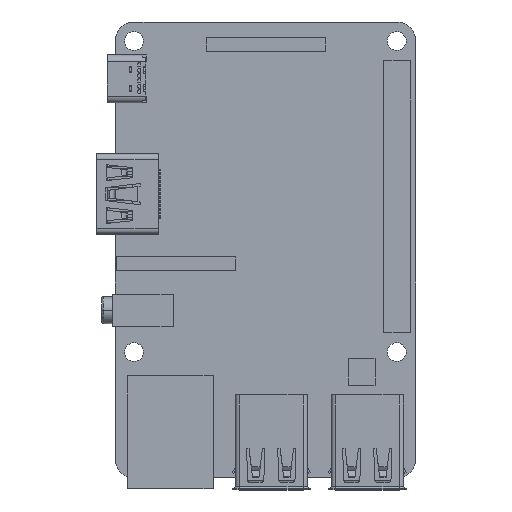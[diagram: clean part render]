
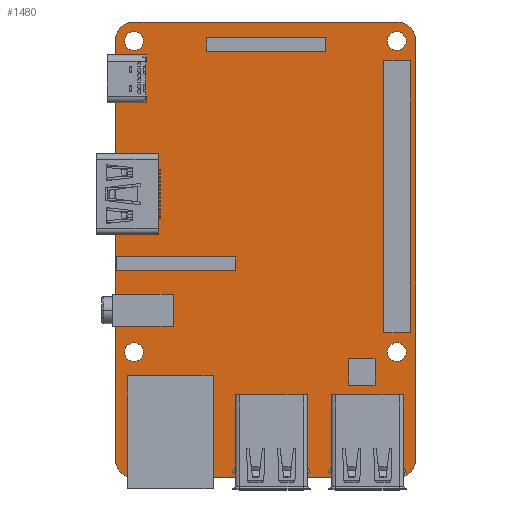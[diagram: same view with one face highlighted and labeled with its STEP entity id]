
A CAD part, top view. The second image highlights one B-rep face of the part: STEP entity #1480.
In plain terms, the highlighted planar face has unit normal (0, 0, 1).
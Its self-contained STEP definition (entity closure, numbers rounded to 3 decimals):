
#205=CARTESIAN_POINT('',(-24.5,66.45,1.6));
#206=DIRECTION('',(0.,0.,-1.));
#207=DIRECTION('',(-1.,0.,0.));
#208=AXIS2_PLACEMENT_3D('',#205,#206,#207);
#210=DIRECTION('',(1.,0.,0.));
#211=VECTOR('',#210,49.);
#212=CARTESIAN_POINT('',(-24.5,69.95,1.6));
#213=LINE('',#212,#211);
#214=CARTESIAN_POINT('',(24.5,66.45,1.6));
#215=DIRECTION('',(0.,0.,-1.));
#216=DIRECTION('',(0.,1.,0.));
#217=AXIS2_PLACEMENT_3D('',#214,#215,#216);
#219=DIRECTION('',(0.,-1.,0.));
#220=VECTOR('',#219,78.);
#221=CARTESIAN_POINT('',(28.,66.45,1.6));
#222=LINE('',#221,#220);
#223=CARTESIAN_POINT('',(24.5,-11.55,1.6));
#224=DIRECTION('',(0.,0.,-1.));
#225=DIRECTION('',(1.,0.,0.));
#226=AXIS2_PLACEMENT_3D('',#223,#224,#225);
#228=DIRECTION('',(-1.,0.,0.));
#229=VECTOR('',#228,49.);
#230=CARTESIAN_POINT('',(24.5,-15.05,1.6));
#231=LINE('',#230,#229);
#232=CARTESIAN_POINT('',(-24.5,-11.55,1.6));
#233=DIRECTION('',(0.,0.,-1.));
#234=DIRECTION('',(0.,-1.,0.));
#235=AXIS2_PLACEMENT_3D('',#232,#233,#234);
#237=DIRECTION('',(0.,1.,0.));
#238=VECTOR('',#237,78.);
#239=CARTESIAN_POINT('',(-28.,-11.55,1.6));
#240=LINE('',#239,#238);
#241=CARTESIAN_POINT('',(-24.5,66.4,1.6));
#242=DIRECTION('',(0.,0.,1.));
#243=DIRECTION('',(1.,0.,0.));
#244=AXIS2_PLACEMENT_3D('',#241,#242,#243);
#246=CARTESIAN_POINT('',(-24.5,66.4,1.6));
#247=DIRECTION('',(0.,0.,1.));
#248=DIRECTION('',(-1.,0.,0.));
#249=AXIS2_PLACEMENT_3D('',#246,#247,#248);
#251=CARTESIAN_POINT('',(24.5,66.4,1.6));
#252=DIRECTION('',(0.,0.,1.));
#253=DIRECTION('',(1.,0.,0.));
#254=AXIS2_PLACEMENT_3D('',#251,#252,#253);
#256=CARTESIAN_POINT('',(24.5,66.4,1.6));
#257=DIRECTION('',(0.,0.,1.));
#258=DIRECTION('',(-1.,0.,0.));
#259=AXIS2_PLACEMENT_3D('',#256,#257,#258);
#261=CARTESIAN_POINT('',(-24.5,8.4,1.6));
#262=DIRECTION('',(0.,0.,1.));
#263=DIRECTION('',(1.,0.,0.));
#264=AXIS2_PLACEMENT_3D('',#261,#262,#263);
#266=CARTESIAN_POINT('',(-24.5,8.4,1.6));
#267=DIRECTION('',(0.,0.,1.));
#268=DIRECTION('',(-1.,0.,0.));
#269=AXIS2_PLACEMENT_3D('',#266,#267,#268);
#271=CARTESIAN_POINT('',(24.5,8.4,1.6));
#272=DIRECTION('',(0.,0.,1.));
#273=DIRECTION('',(1.,0.,0.));
#274=AXIS2_PLACEMENT_3D('',#271,#272,#273);
#276=CARTESIAN_POINT('',(24.5,8.4,1.6));
#277=DIRECTION('',(0.,0.,1.));
#278=DIRECTION('',(-1.,0.,0.));
#279=AXIS2_PLACEMENT_3D('',#276,#277,#278);
#313=DIRECTION('',(-1.,0.,0.));
#314=VECTOR('',#313,5.);
#315=CARTESIAN_POINT('',(20.44,2.23,1.6));
#316=LINE('',#315,#314);
#321=DIRECTION('',(0.,1.,0.));
#322=VECTOR('',#321,5.);
#323=CARTESIAN_POINT('',(15.44,2.23,1.6));
#324=LINE('',#323,#322);
#329=DIRECTION('',(1.,0.,0.));
#330=VECTOR('',#329,5.);
#331=CARTESIAN_POINT('',(15.44,7.23,1.6));
#332=LINE('',#331,#330);
#337=DIRECTION('',(0.,-1.,0.));
#338=VECTOR('',#337,5.);
#339=CARTESIAN_POINT('',(20.44,7.23,1.6));
#340=LINE('',#339,#338);
#361=DIRECTION('',(-1.,0.,0.));
#362=VECTOR('',#361,5.);
#363=CARTESIAN_POINT('',(27.06,12.,1.6));
#364=LINE('',#363,#362);
#369=DIRECTION('',(0.,1.,0.));
#370=VECTOR('',#369,50.7);
#371=CARTESIAN_POINT('',(22.06,12.,1.6));
#372=LINE('',#371,#370);
#377=DIRECTION('',(1.,0.,0.));
#378=VECTOR('',#377,5.);
#379=CARTESIAN_POINT('',(22.06,62.7,1.6));
#380=LINE('',#379,#378);
#385=DIRECTION('',(0.,-1.,0.));
#386=VECTOR('',#385,50.7);
#387=CARTESIAN_POINT('',(27.06,62.7,1.6));
#388=LINE('',#387,#386);
#409=DIRECTION('',(-1.,0.,0.));
#410=VECTOR('',#409,22.2);
#411=CARTESIAN_POINT('',(-5.5,23.55,1.6));
#412=LINE('',#411,#410);
#417=DIRECTION('',(0.,1.,0.));
#418=VECTOR('',#417,2.6);
#419=CARTESIAN_POINT('',(-27.7,23.55,1.6));
#420=LINE('',#419,#418);
#425=DIRECTION('',(1.,0.,0.));
#426=VECTOR('',#425,22.2);
#427=CARTESIAN_POINT('',(-27.7,26.15,1.6));
#428=LINE('',#427,#426);
#433=DIRECTION('',(0.,-1.,0.));
#434=VECTOR('',#433,2.6);
#435=CARTESIAN_POINT('',(-5.5,26.15,1.6));
#436=LINE('',#435,#434);
#457=DIRECTION('',(-1.,0.,0.));
#458=VECTOR('',#457,22.2);
#459=CARTESIAN_POINT('',(11.2,64.45,1.6));
#460=LINE('',#459,#458);
#465=DIRECTION('',(0.,1.,0.));
#466=VECTOR('',#465,2.6);
#467=CARTESIAN_POINT('',(-11.,64.45,1.6));
#468=LINE('',#467,#466);
#473=DIRECTION('',(1.,0.,0.));
#474=VECTOR('',#473,22.2);
#475=CARTESIAN_POINT('',(-11.,67.05,1.6));
#476=LINE('',#475,#474);
#481=DIRECTION('',(0.,-1.,0.));
#482=VECTOR('',#481,2.6);
#483=CARTESIAN_POINT('',(11.2,67.05,1.6));
#484=LINE('',#483,#482);
#929=CARTESIAN_POINT('',(-26.25,66.4,1.6));
#930=VERTEX_POINT('',#929);
#931=CARTESIAN_POINT('',(-22.75,66.4,1.6));
#932=VERTEX_POINT('',#931);
#933=CARTESIAN_POINT('',(-28.,66.45,1.6));
#934=CARTESIAN_POINT('',(-24.5,69.95,1.6));
#935=VERTEX_POINT('',#933);
#936=VERTEX_POINT('',#934);
#937=CARTESIAN_POINT('',(24.5,69.95,1.6));
#938=VERTEX_POINT('',#937);
#939=CARTESIAN_POINT('',(28.,66.45,1.6));
#940=VERTEX_POINT('',#939);
#941=CARTESIAN_POINT('',(28.,-11.55,1.6));
#942=VERTEX_POINT('',#941);
#943=CARTESIAN_POINT('',(24.5,-15.05,1.6));
#944=VERTEX_POINT('',#943);
#945=CARTESIAN_POINT('',(-24.5,-15.05,1.6));
#946=VERTEX_POINT('',#945);
#947=CARTESIAN_POINT('',(-28.,-11.55,1.6));
#948=VERTEX_POINT('',#947);
#949=CARTESIAN_POINT('',(26.25,66.4,1.6));
#950=CARTESIAN_POINT('',(22.75,66.4,1.6));
#951=VERTEX_POINT('',#949);
#952=VERTEX_POINT('',#950);
#953=CARTESIAN_POINT('',(-22.75,8.4,1.6));
#954=CARTESIAN_POINT('',(-26.25,8.4,1.6));
#955=VERTEX_POINT('',#953);
#956=VERTEX_POINT('',#954);
#957=CARTESIAN_POINT('',(26.25,8.4,1.6));
#958=CARTESIAN_POINT('',(22.75,8.4,1.6));
#959=VERTEX_POINT('',#957);
#960=VERTEX_POINT('',#958);
#961=CARTESIAN_POINT('',(20.44,2.23,1.6));
#962=CARTESIAN_POINT('',(15.44,2.23,1.6));
#963=VERTEX_POINT('',#961);
#964=VERTEX_POINT('',#962);
#965=CARTESIAN_POINT('',(20.44,7.23,1.6));
#966=VERTEX_POINT('',#965);
#967=CARTESIAN_POINT('',(15.44,7.23,1.6));
#968=VERTEX_POINT('',#967);
#969=CARTESIAN_POINT('',(27.06,12.,1.6));
#970=CARTESIAN_POINT('',(22.06,12.,1.6));
#971=VERTEX_POINT('',#969);
#972=VERTEX_POINT('',#970);
#973=CARTESIAN_POINT('',(27.06,62.7,1.6));
#974=VERTEX_POINT('',#973);
#975=CARTESIAN_POINT('',(22.06,62.7,1.6));
#976=VERTEX_POINT('',#975);
#977=CARTESIAN_POINT('',(-5.5,23.55,1.6));
#978=CARTESIAN_POINT('',(-27.7,23.55,1.6));
#979=VERTEX_POINT('',#977);
#980=VERTEX_POINT('',#978);
#981=CARTESIAN_POINT('',(-5.5,26.15,1.6));
#982=VERTEX_POINT('',#981);
#983=CARTESIAN_POINT('',(-27.7,26.15,1.6));
#984=VERTEX_POINT('',#983);
#985=CARTESIAN_POINT('',(11.2,64.45,1.6));
#986=CARTESIAN_POINT('',(-11.,64.45,1.6));
#987=VERTEX_POINT('',#985);
#988=VERTEX_POINT('',#986);
#989=CARTESIAN_POINT('',(11.2,67.05,1.6));
#990=VERTEX_POINT('',#989);
#991=CARTESIAN_POINT('',(-11.,67.05,1.6));
#992=VERTEX_POINT('',#991);
#1401=CARTESIAN_POINT('',(0.,0.,1.6));
#1402=DIRECTION('',(0.,0.,1.));
#1403=DIRECTION('',(0.,1.,0.));
#1404=AXIS2_PLACEMENT_3D('',#1401,#1402,#1403);
#1405=PLANE('',#1404);
#1406=ORIENTED_EDGE('',*,*,#1312,.T.);
#1407=ORIENTED_EDGE('',*,*,#1327,.T.);
#1408=ORIENTED_EDGE('',*,*,#1340,.T.);
#1409=ORIENTED_EDGE('',*,*,#1353,.T.);
#1410=ORIENTED_EDGE('',*,*,#1368,.T.);
#1411=ORIENTED_EDGE('',*,*,#1381,.T.);
#1412=ORIENTED_EDGE('',*,*,#1395,.T.);
#1413=ORIENTED_EDGE('',*,*,#1258,.T.);
#1414=EDGE_LOOP('',(#1406,#1407,#1408,#1409,#1410,#1411,#1412,#1413));
#1415=FACE_OUTER_BOUND('',#1414,.F.);
#1417=ORIENTED_EDGE('',*,*,#1416,.T.);
#1419=ORIENTED_EDGE('',*,*,#1418,.T.);
#1420=EDGE_LOOP('',(#1417,#1419));
#1421=FACE_BOUND('',#1420,.F.);
#1423=ORIENTED_EDGE('',*,*,#1422,.T.);
#1425=ORIENTED_EDGE('',*,*,#1424,.T.);
#1426=EDGE_LOOP('',(#1423,#1425));
#1427=FACE_BOUND('',#1426,.F.);
#1429=ORIENTED_EDGE('',*,*,#1428,.T.);
#1431=ORIENTED_EDGE('',*,*,#1430,.T.);
#1432=EDGE_LOOP('',(#1429,#1431));
#1433=FACE_BOUND('',#1432,.F.);
#1435=ORIENTED_EDGE('',*,*,#1434,.T.);
#1437=ORIENTED_EDGE('',*,*,#1436,.T.);
#1438=EDGE_LOOP('',(#1435,#1437));
#1439=FACE_BOUND('',#1438,.F.);
#1441=ORIENTED_EDGE('',*,*,#1440,.F.);
#1443=ORIENTED_EDGE('',*,*,#1442,.F.);
#1445=ORIENTED_EDGE('',*,*,#1444,.F.);
#1447=ORIENTED_EDGE('',*,*,#1446,.F.);
#1448=EDGE_LOOP('',(#1441,#1443,#1445,#1447));
#1449=FACE_BOUND('',#1448,.F.);
#1451=ORIENTED_EDGE('',*,*,#1450,.F.);
#1453=ORIENTED_EDGE('',*,*,#1452,.F.);
#1455=ORIENTED_EDGE('',*,*,#1454,.F.);
#1457=ORIENTED_EDGE('',*,*,#1456,.F.);
#1458=EDGE_LOOP('',(#1451,#1453,#1455,#1457));
#1459=FACE_BOUND('',#1458,.F.);
#1461=ORIENTED_EDGE('',*,*,#1460,.F.);
#1463=ORIENTED_EDGE('',*,*,#1462,.F.);
#1465=ORIENTED_EDGE('',*,*,#1464,.F.);
#1467=ORIENTED_EDGE('',*,*,#1466,.F.);
#1468=EDGE_LOOP('',(#1461,#1463,#1465,#1467));
#1469=FACE_BOUND('',#1468,.F.);
#1471=ORIENTED_EDGE('',*,*,#1470,.F.);
#1473=ORIENTED_EDGE('',*,*,#1472,.F.);
#1475=ORIENTED_EDGE('',*,*,#1474,.F.);
#1477=ORIENTED_EDGE('',*,*,#1476,.F.);
#1478=EDGE_LOOP('',(#1471,#1473,#1475,#1477));
#1479=FACE_BOUND('',#1478,.F.);
#1480=ADVANCED_FACE('',(#1415,#1421,#1427,#1433,#1439,#1449,#1459,#1469,#1479),
#1405,.T.);
#209=CIRCLE('',#208,3.5);
#218=CIRCLE('',#217,3.5);
#227=CIRCLE('',#226,3.5);
#236=CIRCLE('',#235,3.5);
#245=CIRCLE('',#244,1.75);
#250=CIRCLE('',#249,1.75);
#255=CIRCLE('',#254,1.75);
#260=CIRCLE('',#259,1.75);
#265=CIRCLE('',#264,1.75);
#270=CIRCLE('',#269,1.75);
#275=CIRCLE('',#274,1.75);
#280=CIRCLE('',#279,1.75);
#1258=EDGE_CURVE('',#948,#935,#240,.T.);
#1312=EDGE_CURVE('',#935,#936,#209,.T.);
#1327=EDGE_CURVE('',#936,#938,#213,.T.);
#1340=EDGE_CURVE('',#938,#940,#218,.T.);
#1353=EDGE_CURVE('',#940,#942,#222,.T.);
#1368=EDGE_CURVE('',#942,#944,#227,.T.);
#1381=EDGE_CURVE('',#944,#946,#231,.T.);
#1395=EDGE_CURVE('',#946,#948,#236,.T.);
#1416=EDGE_CURVE('',#932,#930,#245,.T.);
#1418=EDGE_CURVE('',#930,#932,#250,.T.);
#1422=EDGE_CURVE('',#951,#952,#255,.T.);
#1424=EDGE_CURVE('',#952,#951,#260,.T.);
#1428=EDGE_CURVE('',#955,#956,#265,.T.);
#1430=EDGE_CURVE('',#956,#955,#270,.T.);
#1434=EDGE_CURVE('',#959,#960,#275,.T.);
#1436=EDGE_CURVE('',#960,#959,#280,.T.);
#1440=EDGE_CURVE('',#963,#964,#316,.T.);
#1442=EDGE_CURVE('',#966,#963,#340,.T.);
#1444=EDGE_CURVE('',#968,#966,#332,.T.);
#1446=EDGE_CURVE('',#964,#968,#324,.T.);
#1450=EDGE_CURVE('',#971,#972,#364,.T.);
#1452=EDGE_CURVE('',#974,#971,#388,.T.);
#1454=EDGE_CURVE('',#976,#974,#380,.T.);
#1456=EDGE_CURVE('',#972,#976,#372,.T.);
#1460=EDGE_CURVE('',#979,#980,#412,.T.);
#1462=EDGE_CURVE('',#982,#979,#436,.T.);
#1464=EDGE_CURVE('',#984,#982,#428,.T.);
#1466=EDGE_CURVE('',#980,#984,#420,.T.);
#1470=EDGE_CURVE('',#987,#988,#460,.T.);
#1472=EDGE_CURVE('',#990,#987,#484,.T.);
#1474=EDGE_CURVE('',#992,#990,#476,.T.);
#1476=EDGE_CURVE('',#988,#992,#468,.T.);
